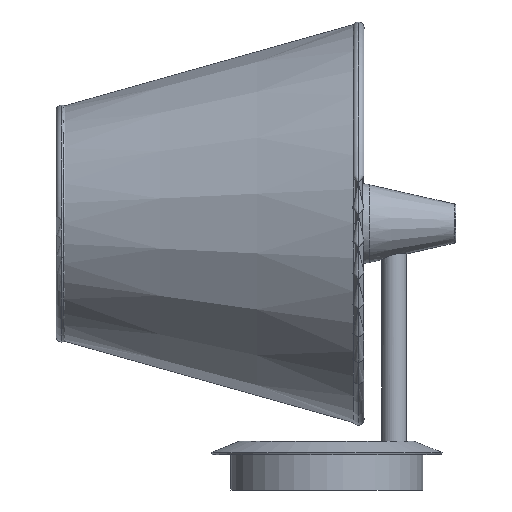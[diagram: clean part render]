
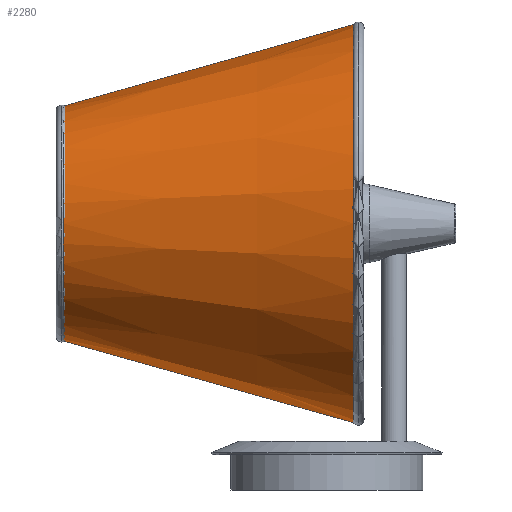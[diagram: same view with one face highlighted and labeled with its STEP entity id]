
A CAD part, left-side view. The second image highlights one B-rep face of the part: STEP entity #2280.
In plain terms, the highlighted conical face has half-angle 15.709 degrees and reference radius 65.258 mm.
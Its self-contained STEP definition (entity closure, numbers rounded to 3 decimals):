
#98=CONICAL_SURFACE('',#2548,65.258,0.274);
#316=FACE_OUTER_BOUND('',#478,.T.);
#478=EDGE_LOOP('',(#1951,#1952,#1953,#1954));
#613=CIRCLE('',#2549,103.45);
#614=CIRCLE('',#2550,61.014);
#769=LINE('',#4234,#927);
#770=LINE('',#4237,#928);
#927=VECTOR('',#3175,304.8);
#928=VECTOR('',#3178,304.8);
#1091=VERTEX_POINT('',#4230);
#1092=VERTEX_POINT('',#4231);
#1093=VERTEX_POINT('',#4233);
#1094=VERTEX_POINT('',#4235);
#1378=EDGE_CURVE('',#1093,#1091,#769,.T.);
#1380=EDGE_CURVE('',#1092,#1094,#770,.T.);
#1381=EDGE_CURVE('',#1092,#1091,#613,.T.);
#1382=EDGE_CURVE('',#1093,#1094,#614,.T.);
#1951=ORIENTED_EDGE('',*,*,#1381,.F.);
#1952=ORIENTED_EDGE('',*,*,#1380,.T.);
#1953=ORIENTED_EDGE('',*,*,#1382,.F.);
#1954=ORIENTED_EDGE('',*,*,#1378,.T.);
#2280=ADVANCED_FACE('',(#316),#98,.T.);
#2548=AXIS2_PLACEMENT_3D('',#4238,#3179,#3180);
#2549=AXIS2_PLACEMENT_3D('',#4239,#3181,#3182);
#2550=AXIS2_PLACEMENT_3D('',#4240,#3183,#3184);
#3175=DIRECTION('',(0.,-0.271,0.963));
#3178=DIRECTION('',(0.,-0.271,-0.963));
#3179=DIRECTION('center_axis',(0.,0.,
1.));
#3180=DIRECTION('ref_axis',(-0.588,0.809,0.));
#3181=DIRECTION('center_axis',(0.,0.,
1.));
#3182=DIRECTION('ref_axis',(-0.588,0.809,0.));
#3183=DIRECTION('center_axis',(0.,0.,
-1.));
#3184=DIRECTION('ref_axis',(-0.588,0.809,0.));
#4230=CARTESIAN_POINT('',(0.,-103.45,154.489));
#4231=CARTESIAN_POINT('',(0.,103.45,154.489));
#4233=CARTESIAN_POINT('',(0.,-61.014,3.607));
#4234=CARTESIAN_POINT('',(0.,-61.014,3.607));
#4235=CARTESIAN_POINT('',(0.,61.014,3.607));
#4237=CARTESIAN_POINT('',(0.,103.45,154.489));
#4238=CARTESIAN_POINT('Origin',(0.,0.,
18.695));
#4239=CARTESIAN_POINT('Origin',(0.,0.,
154.489));
#4240=CARTESIAN_POINT('Origin',(0.,0.,
3.607));
